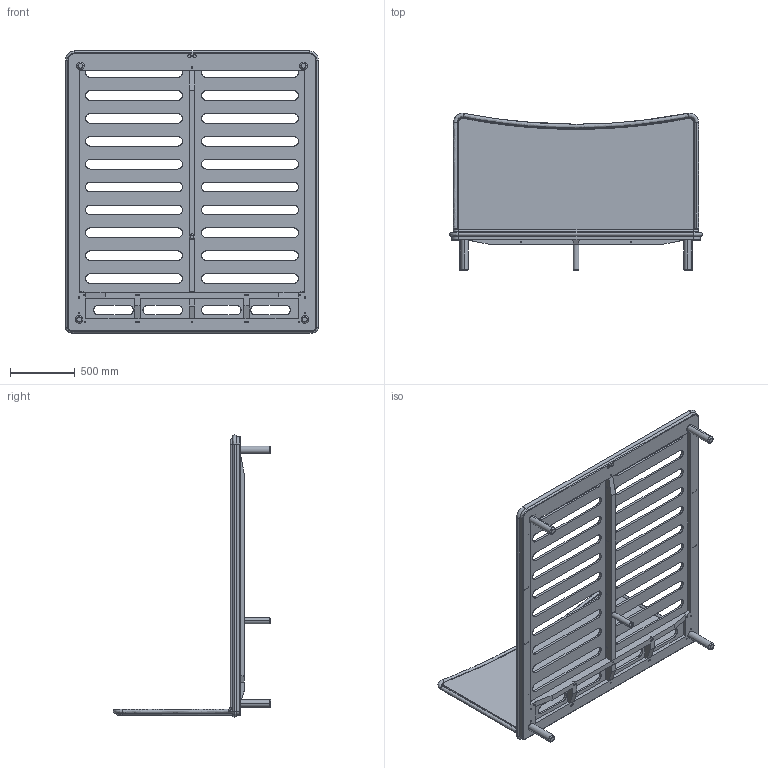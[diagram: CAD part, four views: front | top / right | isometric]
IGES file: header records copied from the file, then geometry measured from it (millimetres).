
Start section: SolidWorks IGES file using analytic representation for surfaces
Global section: file name: C:\Users\David.BDLE\Desktop\NOVOS 3D cad files\Carlton\061UK_Carlton Bed_ve\061UK_Carlton Bed_3D IGS.IGS; native system: SolidWorks 2016; preprocessor: SolidWorks 2016; author: David; date: 201211.125807; units: millimetre
Bounding box: 1950 x 1214.87 x 2175 mm (x, y, z)
Surface area: 12504359.2 mm2 (no closed solid volume)
Topology: 0 solids, 0 shells, 952 faces, 15776 edges, 15709 vertices
Faces by surface type: revolution 631, bspline 321
